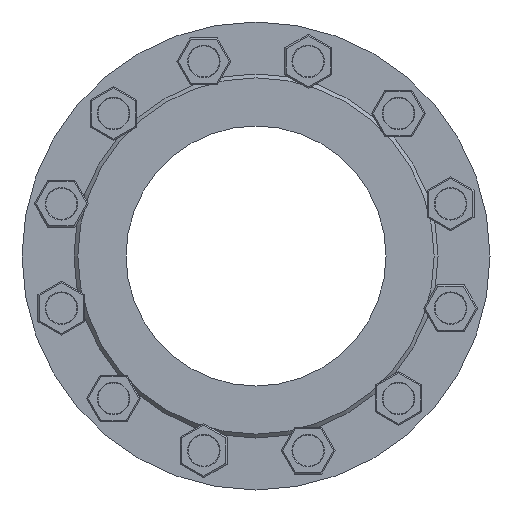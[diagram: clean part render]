
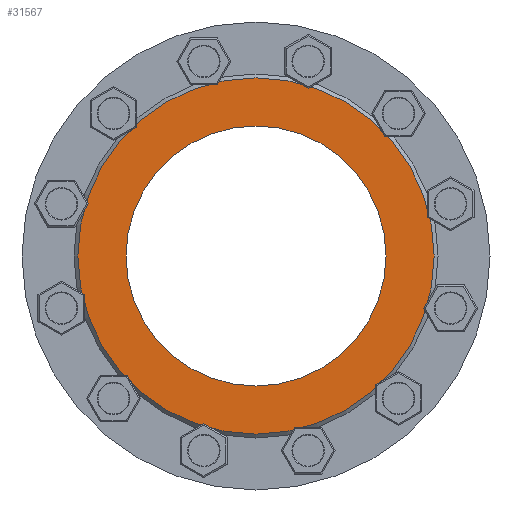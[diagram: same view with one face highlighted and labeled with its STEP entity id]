
A CAD part, left-side view. The second image highlights one B-rep face of the part: STEP entity #31567.
In plain terms, the highlighted planar face has unit normal (-1, 0, 0).
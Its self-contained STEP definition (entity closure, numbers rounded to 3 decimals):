
#2271 = EDGE_LOOP ( 'NONE', ( #26910 ) ) ;
#6213 = EDGE_CURVE ( 'NONE', #10958, #10958, #27140, .T. ) ;
#7340 = CIRCLE ( 'NONE', #8538, 137. ) ;
#7754 = ORIENTED_EDGE ( 'NONE', *, *, #6213, .F. ) ;
#8538 = AXIS2_PLACEMENT_3D ( 'NONE', #25129, #31466, #17282 ) ;
#9630 = CARTESIAN_POINT ( 'NONE',  ( 0., 0., 0. ) ) ;
#10378 = DIRECTION ( 'NONE',  ( -1., 0., 0. ) ) ;
#10958 = VERTEX_POINT ( 'NONE', #21594 ) ;
#11066 = AXIS2_PLACEMENT_3D ( 'NONE', #18780, #10378, #35579 ) ;
#17282 = DIRECTION ( 'NONE',  ( 0., 0., 1. ) ) ;
#18671 = CARTESIAN_POINT ( 'NONE',  ( 0., 0., 137. ) ) ;
#18780 = CARTESIAN_POINT ( 'NONE',  ( 0., 0., 0. ) ) ;
#20809 = FACE_OUTER_BOUND ( 'NONE', #2271, .T. ) ;
#20899 = AXIS2_PLACEMENT_3D ( 'NONE', #9630, #32762, #35560 ) ;
#21594 = CARTESIAN_POINT ( 'NONE',  ( 0., 0., 100. ) ) ;
#22120 = EDGE_CURVE ( 'NONE', #33046, #33046, #7340, .T. ) ;
#23974 = FACE_BOUND ( 'NONE', #36698, .T. ) ;
#24154 = PLANE ( 'NONE',  #20899 ) ;
#25129 = CARTESIAN_POINT ( 'NONE',  ( 0., 0., 0. ) ) ;
#26910 = ORIENTED_EDGE ( 'NONE', *, *, #22120, .T. ) ;
#27140 = CIRCLE ( 'NONE', #11066, 100. ) ;
#31466 = DIRECTION ( 'NONE',  ( -1., 0., 0. ) ) ;
#31567 = ADVANCED_FACE ( 'NONE', ( #23974, #20809 ), #24154, .F. ) ;
#32762 = DIRECTION ( 'NONE',  ( 1., 0., 0. ) ) ;
#33046 = VERTEX_POINT ( 'NONE', #18671 ) ;
#35560 = DIRECTION ( 'NONE',  ( 0., 0., -1. ) ) ;
#35579 = DIRECTION ( 'NONE',  ( 0., 0., 1. ) ) ;
#36698 = EDGE_LOOP ( 'NONE', ( #7754 ) ) ;
